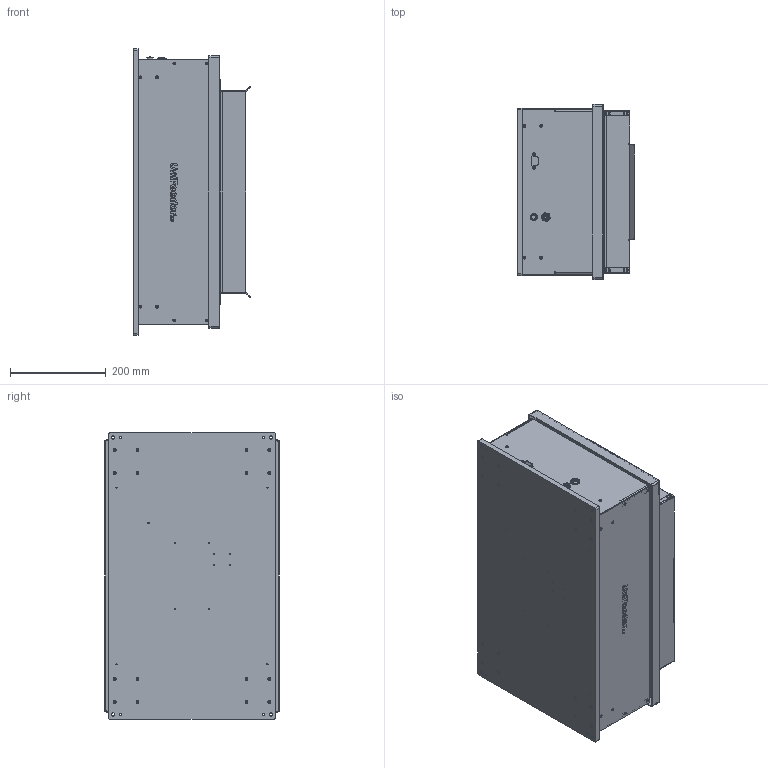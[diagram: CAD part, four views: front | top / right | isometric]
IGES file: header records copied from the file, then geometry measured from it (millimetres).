
Global section: file name: Unifeeder5.0(share); native system: Autodesk Inventor 2024; preprocessor: unknown; author: houns; date: 20250809.224002; units: millimetre
Bounding box: 246.11 x 366 x 600 mm (x, y, z)
Volume: 3752028.8 mm3; surface area: 1776003.7 mm2
Topology: 14 solids, 14 shells, 992 faces, 2714 edges, 1818 vertices
Faces by surface type: bspline 992
